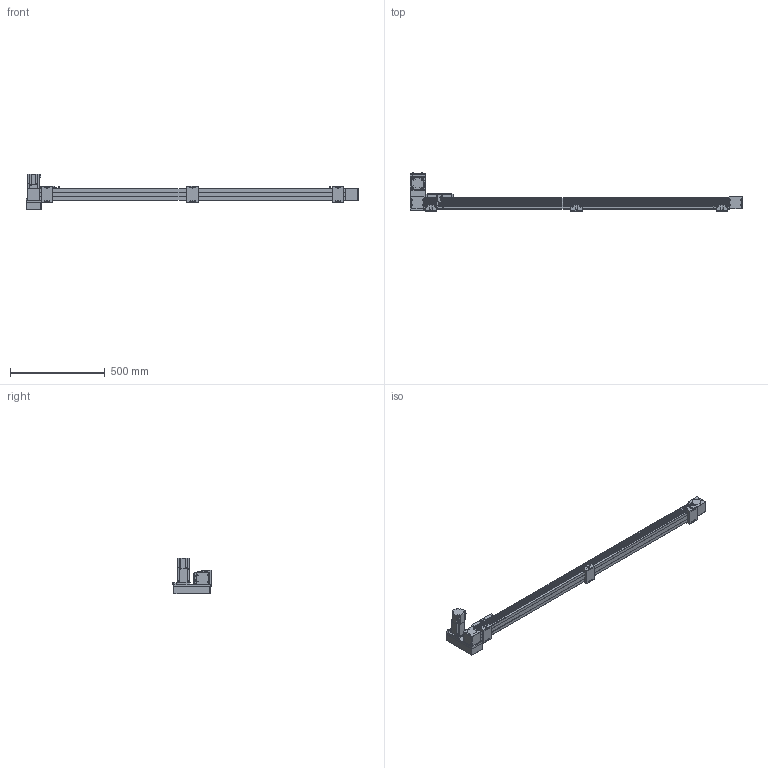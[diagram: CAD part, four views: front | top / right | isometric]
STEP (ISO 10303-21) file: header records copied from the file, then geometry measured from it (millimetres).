
FILE_DESCRIPTION(/* description */ ('STEP AP214'),/* implementation_level */ '2;1');
FILE_NAME(/* name */ 'SK60-P13-S1450-LU-T40-C1-N(0)',/* time_stamp */ '2023-04-06T04:48:00+02:00',/* author */ ('License CC BY-ND 4.0'),/* organization */ ('CADENAS'),/* preprocessor_version */ 'ST-DEVELOPER v19.3',/* originating_system */ 'PARTsolutions',/* authorisation */ ' ');
FILE_SCHEMA (('AUTOMOTIVE_DESIGN {1 0 10303 214 3 1 1}'));
Length unit declared in the file: millimetre
Products named in the file (10): SK60-P13-S1450-LU-T40-C1-N(0); PSC140-sensor; SK60-S450_seat; SK60-S450-BL-C1_slider; SK60_body3; SK60_body6; SK60-BL_body2; T40-p1; SK60-LU_fb; SK60-S1450-LU-C1_body
Assembly tree (17 placements, depth 2):
  SK60-P13-S1450-LU-T40-C1-N(0)
    PSC140-sensor  x3
    SK60-S450_seat  x3
    SK60-S450-BL-C1_slider
    SK60_body3  x3
    SK60_body6  x2
    SK60-BL_body2  x2
    T40-p1
    SK60-LU_fb
    SK60-S1450-LU-C1_body
Bounding box: 1755.5 x 201 x 189.7 mm (x, y, z)
Volume: 7129742.1 mm3; surface area: 865740.8 mm2
Topology: 17 solids, 17 shells, 854 faces, 2146 edges, 1413 vertices
Faces by surface type: plane 548, cylinder 278, cone 26, torus 2
Full cylindrical faces by diameter (mm): 2.8 x3, 3.3 x4, 4 x2, 4.5 x30, 4.6 x3, 4.917 x20, 5 x6, 5.478 x4, 5.5 x23, 6.5 x6, 7 x2, 8 x4, 8.5 x4, 9.988 x4, 10 x12, 14 x1, 47 x3, 50 x2
Entity records: 18663 total; most frequent: DIRECTION 3186, CARTESIAN_POINT 3151, ORIENTED_EDGE 2940, EDGE_CURVE 1470, AXIS2_PLACEMENT_3D 1069, LINE 1048, VECTOR 1048, VERTEX_POINT 1034
